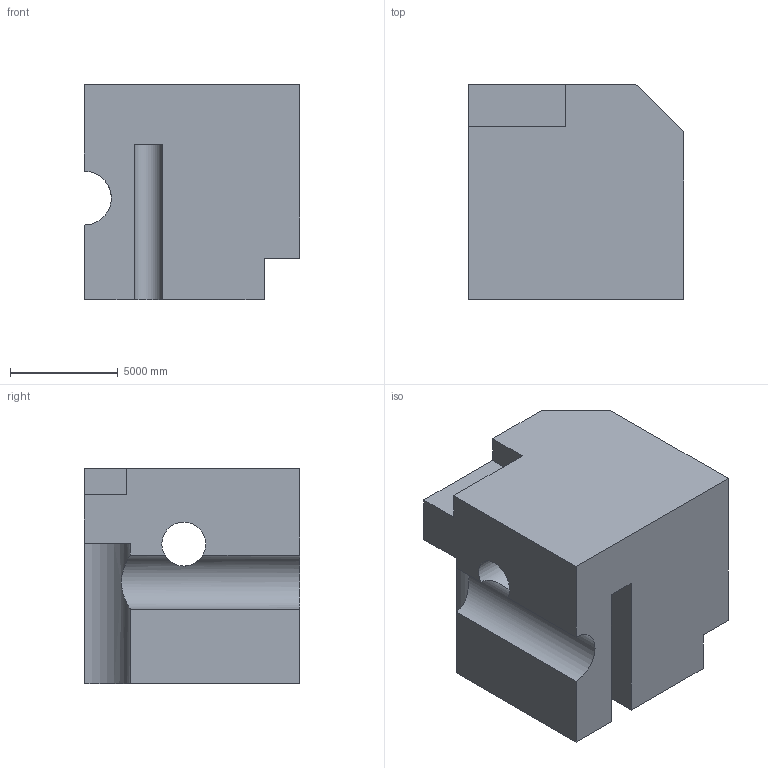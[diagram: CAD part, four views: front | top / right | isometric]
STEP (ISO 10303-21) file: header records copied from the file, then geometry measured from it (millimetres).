
FILE_DESCRIPTION (( 'STEP AP203' ), '1' );
FILE_NAME ('398.STEP', '2022-09-07T15:31:54', ( 'user' ), ( '' ), 'SwSTEP 2.0', 'SolidWorks 2021', '' );
FILE_SCHEMA (( 'CONFIG_CONTROL_DESIGN' ));
Length unit declared in the file: centimetre
Products named in the file (1): 398
Bounding box: 10000 x 10000 x 10000 mm (x, y, z)
Volume: 814646828203.8 mm3; surface area: 709849751.2 mm2
Topology: 1 solids, 1 shells, 38 faces, 108 edges, 72 vertices
Faces by surface type: plane 26, cylinder 12
Entity records: 1646 total; most frequent: CARTESIAN_POINT 567, ORIENTED_EDGE 216, DIRECTION 202, EDGE_CURVE 108, LINE 78, VECTOR 78, VERTEX_POINT 72, AXIS2_PLACEMENT_3D 62
